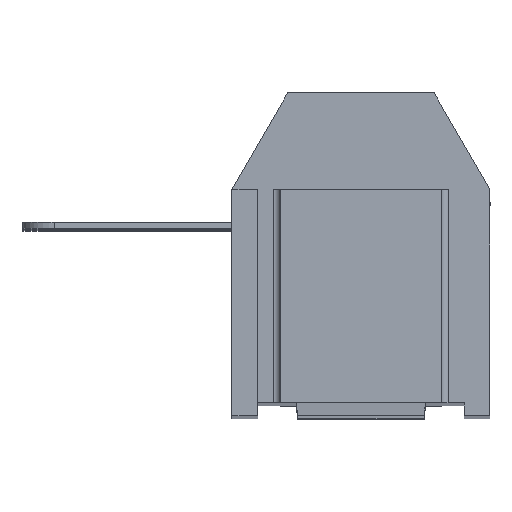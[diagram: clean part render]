
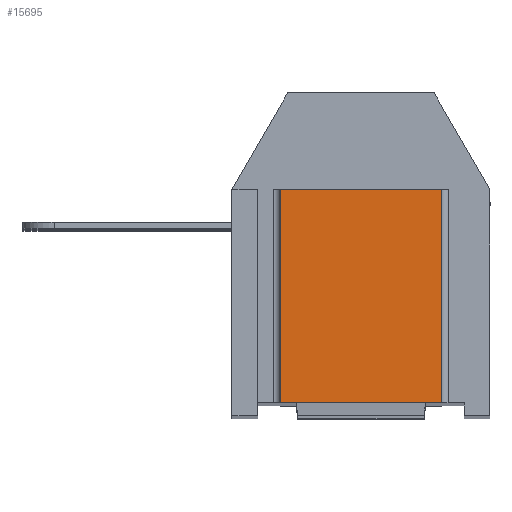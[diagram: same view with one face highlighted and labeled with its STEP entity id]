
A CAD part, top view. The second image highlights one B-rep face of the part: STEP entity #15695.
In plain terms, the highlighted planar face has unit normal (0, 0, 1).
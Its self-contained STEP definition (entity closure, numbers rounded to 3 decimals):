
#9454 = CARTESIAN_POINT ( 'NONE',  ( -1.091, -3.348, 0. ) ) ;
#9546 = CARTESIAN_POINT ( 'NONE',  ( -6.091, -3.348, 0. ) ) ;
#9547 = DIRECTION ( 'NONE',  ( -1., 0., 0. ) ) ;
#9548 = VECTOR ( 'NONE', #9547, 1000. ) ;
#9549 = CARTESIAN_POINT ( 'NONE',  ( -3.591, -3.348, 0. ) ) ;
#9550 = LINE ( 'NONE', #9549, #9548 ) ;
#15695 = ADVANCED_FACE ( 'NONE', ( #30649 ), #30648, .F. ) ;
#15698 = EDGE_LOOP ( 'NONE', ( #15700, #15801, #15803, #15804 ) ) ;
#15700 = ORIENTED_EDGE ( 'NONE', *, *, #15796, .T. ) ;
#15796 = EDGE_CURVE ( 'NONE', #15799, #24256, #30765, .T. ) ;
#15799 = VERTEX_POINT ( 'NONE', #30761 ) ;
#15801 = ORIENTED_EDGE ( 'NONE', *, *, #24255, .F. ) ;
#15803 = ORIENTED_EDGE ( 'NONE', *, *, #15830, .F. ) ;
#15804 = ORIENTED_EDGE ( 'NONE', *, *, #15805, .T. ) ;
#15805 = EDGE_CURVE ( 'NONE', #15827, #15799, #30760, .T. ) ;
#15827 = VERTEX_POINT ( 'NONE', #30735 ) ;
#15830 = EDGE_CURVE ( 'NONE', #15827, #24195, #30799, .T. ) ;
#24195 = VERTEX_POINT ( 'NONE', #9454 ) ;
#24255 = EDGE_CURVE ( 'NONE', #24195, #24256, #9550, .T. ) ;
#24256 = VERTEX_POINT ( 'NONE', #9546 ) ;
#30644 = DIRECTION ( 'NONE',  ( -1., 0., 0. ) ) ;
#30645 = DIRECTION ( 'NONE',  ( 0., 0., -1. ) ) ;
#30646 = CARTESIAN_POINT ( 'NONE',  ( -1.091, -3.348, 0. ) ) ;
#30647 = AXIS2_PLACEMENT_3D ( 'NONE', #30646, #30645, #30644 ) ;
#30648 = PLANE ( 'NONE',  #30647 ) ;
#30649 = FACE_OUTER_BOUND ( 'NONE', #15698, .T. ) ;
#30735 = CARTESIAN_POINT ( 'NONE',  ( -1.091, 3.252, 0. ) ) ;
#30757 = DIRECTION ( 'NONE',  ( -1., 0., 0. ) ) ;
#30758 = VECTOR ( 'NONE', #30757, 1000. ) ;
#30759 = CARTESIAN_POINT ( 'NONE',  ( -3.591, 3.252, 0. ) ) ;
#30760 = LINE ( 'NONE', #30759, #30758 ) ;
#30761 = CARTESIAN_POINT ( 'NONE',  ( -6.091, 3.252, 0. ) ) ;
#30762 = DIRECTION ( 'NONE',  ( 0., -1., 0. ) ) ;
#30763 = VECTOR ( 'NONE', #30762, 1000. ) ;
#30764 = CARTESIAN_POINT ( 'NONE',  ( -6.091, -0.048, 0. ) ) ;
#30765 = LINE ( 'NONE', #30764, #30763 ) ;
#30796 = DIRECTION ( 'NONE',  ( 0., -1., 0. ) ) ;
#30797 = VECTOR ( 'NONE', #30796, 1000. ) ;
#30798 = CARTESIAN_POINT ( 'NONE',  ( -1.091, -0.048, 0. ) ) ;
#30799 = LINE ( 'NONE', #30798, #30797 ) ;
